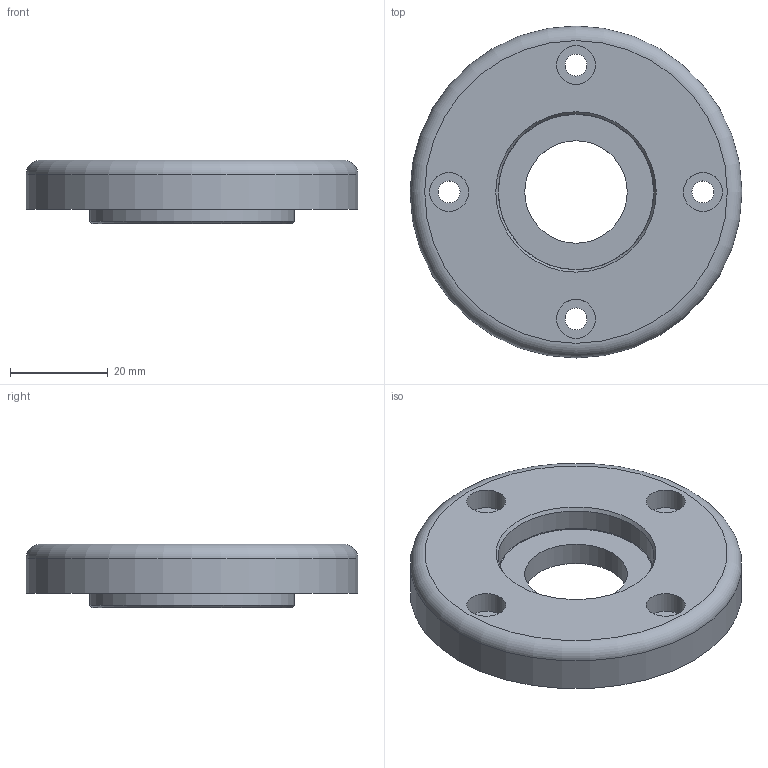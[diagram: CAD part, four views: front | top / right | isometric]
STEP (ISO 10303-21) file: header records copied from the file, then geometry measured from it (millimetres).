
FILE_DESCRIPTION(/* description */ (''),/* implementation_level */ '2;1');
FILE_NAME(/* name */ '',/* time_stamp */ '2026-07-30T15:24:26+09:00',/* author */ ('jhkim'),/* organization */ (''),/* preprocessor_version */ 'ST-DEVELOPER v20.1',/* originating_system */ 'Autodesk Inventor 2027',/* authorisation */ '');
FILE_SCHEMA (('AUTOMOTIVE_DESIGN { 1 0 10303 214 3 1 1 }'));
Length unit declared in the file: millimetre
Products named in the file (1): 커버
Bounding box: 68 x 68 x 13 mm (x, y, z)
Volume: 30268.4 mm3; surface area: 10404.6 mm2
Topology: 1 solids, 1 shells, 26 faces, 49 edges, 32 vertices
Faces by surface type: cylinder 12, plane 9, torus 3, cone 2
Full cylindrical faces by diameter (mm): 4.5 x4, 8 x4, 21 x1, 32 x1, 42 x1, 68 x1
Entity records: 735 total; most frequent: DIRECTION 138, CARTESIAN_POINT 108, ORIENTED_EDGE 98, AXIS2_PLACEMENT_3D 62, EDGE_CURVE 49, EDGE_LOOP 43, CIRCLE 35, VERTEX_POINT 32
